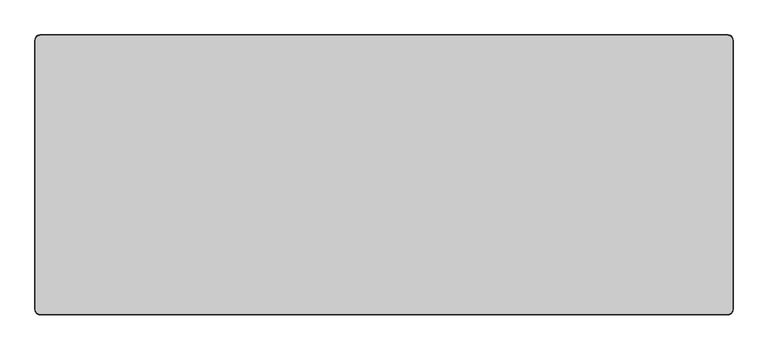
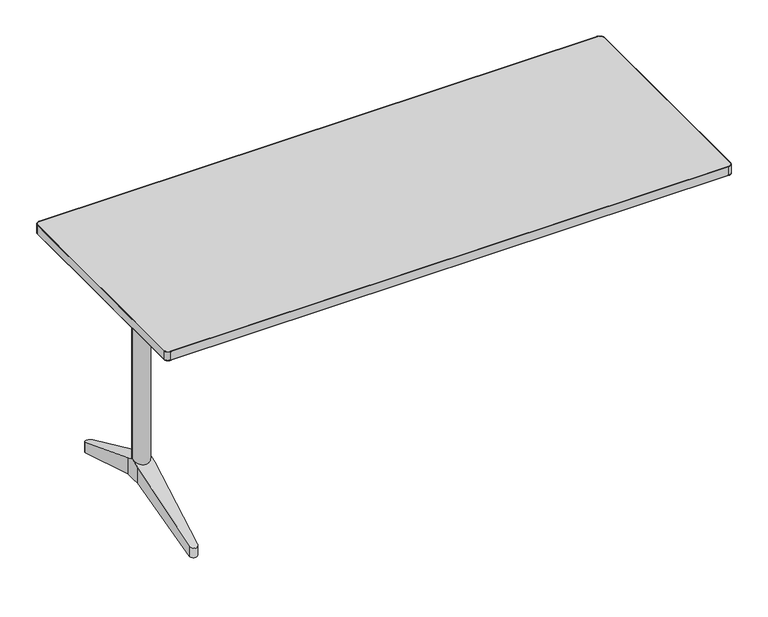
"""IFC4 building model written with IfcOpenShell, lengths in millimetres: furniture geometry, Furniture_Wilkhahn_612-51_TimetableSmart : TIMETABLE SMART 612/51 1500L x 0600W."""

from ifc_helpers import new_model, si_unit, point, frame, frame_2d, origin, place, context, project, spatial, polyline, circle_curve, ellipse_curve, trimmed, segment, composite_curve, outline, extrude, source, transform, mapped, element, save
from ifc_brep_helpers import plane_surface, cylinder_surface, revolved_surface, advanced_brep


def furniture_6ae0472c(model_context):
    return source(origin(), model_context, "Body", "SolidModel", [
        advanced_brep(
        [(-633.227182, -113.0675149, 88.8098467), (-653.3042073, -113.0675149, 88.8098467), (-665.7478455, 103.4511538, 165.9000199), (-620.7835638, 103.4511538, 165.9000199), (-633.2821683, -114.0242798, 118.1504308), (-620.7835661, 103.452023, 210.3603745), (-620.7657234, 125.9511569, 219.9000064), (-665.7657383, 125.9511569, 219.9000064), (-665.7657383, 103.4511538, 210.360006), (-653.2492204, -114.0242831, 118.1504294), (-633.2821683, -114.0242798, 88.8098467), (-653.2492204, -114.0242831, 88.8098467), (-633.227182, 364.9698238, 88.8098467), (-653.3042073, 364.9698238, 88.8098467), (-653.2492204, 365.926592, 88.8098467), (-633.2821683, 365.9265887, 88.8098467), (-620.7835661, 148.4502859, 210.3603745), (-633.2821683, 365.9265887, 118.1504308), (-653.2492204, 365.926592, 118.1504294), (-665.7478455, 148.4511551, 210.360006), (-620.7835638, 148.4502451, 165.9003439), (-665.7478455, 148.4511551, 165.9000199), (-620.7657234, 125.9511544, 165.9000199), (-665.7657383, 125.9511544, 165.9000199)],
        [
            (0, 1),
            (1, 2),
            (2, 3),
            (3, 0),
            (4, 5),
            (5, 6),
            (6, 7),
            (7, 8),
            (8, 9),
            (9, 4, ellipse_curve(frame((-643.2656945, -113.4505156, 118.3937069), z_axis=(0.0, -0.39036065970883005, 0.9206620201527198), x_axis=(0.0, -0.9206620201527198, -0.3903606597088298)), 10.8617492, 10.0)),
            (0, 10),
            (10, 11, circle_curve(frame((-643.2656945, -113.4505156, 88.8098467), z_axis=(0.0, 0.0, -1.0), x_axis=(1.0, 0.0, 0.0)), 10.0)),
            (11, 1),
            (12, 13),
            (13, 14),
            (14, 15, circle_curve(frame((-643.2656945, 365.3528245, 88.8098467), z_axis=(0.0, 0.0, -1.0), x_axis=(1.0, 0.0, 0.0)), 10.0)),
            (15, 12),
            (16, 17),
            (17, 18, ellipse_curve(frame((-643.2656945, 365.3528245, 118.3937069), z_axis=(0.0, 0.39036065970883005, 0.9206620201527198), x_axis=(0.0, 0.9206620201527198, -0.3903606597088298)), 10.8617492, 10.0)),
            (18, 19),
            (19, 7),
            (6, 16),
            (12, 20),
            (20, 21),
            (21, 13),
            (15, 17),
            (16, 20),
            (18, 14),
            (21, 19),
            (4, 10),
            (3, 5),
            (9, 11),
            (8, 2),
            (3, 22),
            (22, 20),
            (21, 23),
            (23, 2),
            (23, 22),
        ],
        [
            plane_surface(frame((-620.7657234, -113.0675149, 88.8098467), z_axis=(0.0, 0.33541814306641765, -0.9420693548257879), x_axis=(-1.0, 0.0, 0.0))),
            plane_surface(frame((-620.7657234, 103.4511538, 210.360006), z_axis=(0.0, -0.39036065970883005, 0.9206620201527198), x_axis=(-1.0, 0.0, 0.0))),
            plane_surface(frame((-620.7657234, -124.5346363, 88.8098467), z_axis=(0.0, 0.0, -1.0), x_axis=(-1.0, 0.0, 0.0))),
            plane_surface(frame((-620.7657234, 364.9698238, 88.8098467), z_axis=(0.0, 0.0, -1.0), x_axis=(-1.0, 0.0, 0.0))),
            plane_surface(frame((-620.7657234, 376.4369452, 113.6940401), z_axis=(0.0, 0.39036065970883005, 0.9206620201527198), x_axis=(-1.0, 0.0, 0.0))),
            plane_surface(frame((-620.7657234, 148.4511551, 165.9000199), z_axis=(0.0, -0.33541814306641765, -0.9420693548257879), x_axis=(-1.0, 0.0, 0.0))),
            plane_surface(frame((-633.2821683, 365.9265887, 234.8098558), z_axis=(0.9983526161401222, 0.0573764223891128, 0.0), x_axis=(0.0, 0.0, -1.0))),
            plane_surface(frame((-665.7478455, 148.4511551, 234.8098558), z_axis=(-0.9983525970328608, 0.0573767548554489, 0.0), x_axis=(0.0, 0.0, -1.0))),
            cylinder_surface(frame((-643.2656945, 365.3528245, 75.8098498), z_axis=(0.0, 0.0, -1.0), x_axis=(1.0, 0.0, 0.0)), 10.0),
            plane_surface(frame((-620.7836161, 103.4511538, 234.8098558), z_axis=(0.9983526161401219, -0.05737642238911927, 0.0), x_axis=(0.0, 0.0, -1.0))),
            cylinder_surface(frame((-643.2656945, -113.4505156, -14.1901527), z_axis=(0.0, 0.0, -1.0), x_axis=(1.0, 0.0, 0.0)), 10.0),
            plane_surface(frame((-653.2492204, -114.0242831, 234.8098558), z_axis=(-0.9983525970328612, -0.05737675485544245, 0.0), x_axis=(0.0, 0.0, -1.0))),
            plane_surface(frame((-620.7657234, 148.4511551, 210.360006), z_axis=(1.0, 0.0, 0.0), x_axis=(0.0, -0.9206619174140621, 0.3903609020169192))),
            plane_surface(frame((-665.7657383, 148.4511551, 210.360006), z_axis=(-1.0, 0.0, 0.0), x_axis=(0.0, 0.9206619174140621, -0.3903609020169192))),
            plane_surface(frame((-620.7657234, 103.4511538, 165.9000199), z_axis=(0.0, 0.0, -1.0), x_axis=(-1.0, 0.0, 0.0))),
            plane_surface(frame((-620.7657234, 125.9511544, 165.9000199), z_axis=(0.0, 0.0, -1.0), x_axis=(-1.0, 0.0, 0.0))),
        ],
        [
            (0, [[1, 2, 3, 4]]),
            (1, [[5, 6, 7, 8, 9, 10]]),
            (2, [[-1, 11, 12, 13]]),
            (3, [[14, 15, 16, 17]]),
            (4, [[18, 19, 20, 21, -7, 22]]),
            (5, [[-14, 23, 24, 25]]),
            (6, [[26, -18, 27, -23, -17]]),
            (7, [[28, -15, -25, 29, -20]]),
            (8, [[-26, -16, -28, -19]]),
            (9, [[30, -11, -4, 31, -5]]),
            (10, [[-30, -10, 32, -12]]),
            (11, [[-32, -9, 33, -2, -13]]),
            (12, [[-22, -6, -31, 34, 35, -27]]),
            (13, [[36, 37, -33, -8, -21, -29]]),
            (14, [[-34, -3, -37, 38]]),
            (15, [[-35, -38, -36, -24]]),
        ],
    ),
        extrude(outline(composite_curve([segment(trimmed(circle_curve(frame_2d((-643.2657309, 125.9511544)), 22.0), [point((-665.2657309, 125.9511544))], [point((-621.2657309, 125.9511544))], False, "CARTESIAN"), True, "CONTINUOUS"), segment(trimmed(circle_curve(frame_2d((-643.2657309, 125.9511544)), 22.0), [point((-621.2657309, 125.9511544))], [point((-665.2657309, 125.9511544))], False, "CARTESIAN"), True, "CONTINUOUS")], self_intersect=False)), frame((0.0, 0.0, 165.9000199), z_axis=(0.0, 0.0, 1.0), x_axis=(1.0, 0.0, 0.0)), (0.0, 0.0, 1.0), 509.0999944),
        extrude(outline(polyline([(-675.0000109, 322.9511544), (-615.0000395, 322.9511544), (-615.0000395, -71.0488456), (-675.0000109, -71.0488456), (-675.0000109, 322.9511544)]), holes=[polyline([(-617.0000628, 65.9511581), (-617.0000628, 175.9511571), (-672.9999876, 175.9511571), (-672.9999876, 65.9511581), (-617.0000628, 65.9511581)])]), frame((0.0, 0.0, 684.9999762), z_axis=(0.0, 0.0, 1.0), x_axis=(1.0, 0.0, 0.0)), (0.0, 0.0, 1.0), 20.0000238),
        extrude(outline(polyline([(615.0000395, 322.9511544), (675.0000109, 322.9511544), (675.0000109, -71.0488456), (615.0000395, -71.0488456), (615.0000395, 322.9511544)]), holes=[polyline([(672.9999876, 65.9511581), (672.9999876, 175.9511571), (617.0000628, 175.9511571), (617.0000628, 65.9511581), (672.9999876, 65.9511581)])]), frame((0.0, 0.0, 684.9999762), z_axis=(0.0, 0.0, 1.0), x_axis=(1.0, 0.0, 0.0)), (0.0, 0.0, 1.0), 20.0000238),
        extrude(outline(polyline([(-620.7657234, 75.9511563), (-665.7657383, 75.9511563), (-665.7657383, 155.951156), (-620.7657234, 155.951156), (-620.7657234, 75.9511563)])), frame((0.0, 0.0, 675.0000143), z_axis=(0.0, 0.0, 1.0), x_axis=(1.0, 0.0, 0.0)), (0.0, 0.0, 1.0), 29.9999857),
        extrude(outline(polyline([(620.7657234, 75.9511563), (620.7657234, 155.951156), (665.7657383, 155.951156), (665.7657383, 75.9511563), (620.7657234, 75.9511563)])), frame((0.0, 0.0, 675.0000143), z_axis=(0.0, 0.0, 1.0), x_axis=(1.0, 0.0, 0.0)), (0.0, 0.0, 1.0), 29.9999857),
        extrude(outline(composite_curve([segment(trimmed(circle_curve(frame_2d((-643.2657309, 125.9511544)), 22.0), [point((-629.9334407, 108.4511533))], [point((-629.9334407, 143.4511556))], True, "CARTESIAN"), True, "CONTINUOUS"), segment(polyline([(-629.9334407, 143.4511556), (629.9334407, 143.4511556)]), True, "CONTINUOUS"), segment(trimmed(circle_curve(frame_2d((643.2657309, 125.9511544)), 22.0), [point((629.9334407, 143.4511556))], [point((629.9334407, 108.4511533))], True, "CARTESIAN"), True, "CONTINUOUS"), segment(polyline([(629.9334407, 108.4511533), (-629.9334407, 108.4511533)]), True, "CONTINUOUS")], self_intersect=False)), frame((0.0, 0.0, 625.0000143), z_axis=(0.0, 0.0, 1.0), x_axis=(1.0, 0.0, 0.0)), (0.0, 0.0, 1.0), 50.0),
        advanced_brep(
        [(-615.0000395, -94.0488456, 676.3914874), (-615.0000395, -94.0488456, 696.3914874), (615.0000395, -94.0488456, 676.3914874), (615.0000395, -94.0488456, 696.3914874), (-607.9107653, -94.0488456, 676.3914874), (-606.463829, -94.0488456, 696.3914874), (-552.9107794, -94.0488456, 668.391467), (-551.4638431, -94.0488456, 688.391467), (552.910768, -94.0488456, 668.391467), (551.4638316, -94.0488456, 688.391467), (607.9107539, -94.0488456, 676.3914874), (606.4638175, -94.0488456, 696.3914874)],
        [
            (0, 1, circle_curve(frame((-615.0000395, -94.0488456, 686.3914874), z_axis=(-1.0, 0.0, 0.0), x_axis=(0.0, 0.0, 1.0)), 10.0)),
            (1, 0, circle_curve(frame((-615.0000395, -94.0488456, 686.3914874), z_axis=(-1.0, 0.0, 0.0), x_axis=(0.0, 0.0, 1.0)), 10.0)),
            (2, 3, circle_curve(frame((615.0000395, -94.0488456, 686.3914874), z_axis=(1.0, 0.0, 0.0), x_axis=(0.0, 0.0, 1.0)), 10.0)),
            (3, 2, circle_curve(frame((615.0000395, -94.0488456, 686.3914874), z_axis=(1.0, 0.0, 0.0), x_axis=(0.0, 0.0, 1.0)), 10.0)),
            (0, 4),
            (4, 5, ellipse_curve(frame((-607.1872971, -94.0488456, 686.3914874), z_axis=(-0.9973931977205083, 0.0, 0.07215822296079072), x_axis=(-0.07215822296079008, 0.0, -0.9973931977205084)), 10.0261362, 10.0)),
            (5, 1),
            (5, 4, ellipse_curve(frame((-607.1872971, -94.0488456, 686.3914874), z_axis=(-0.9973931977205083, 0.0, 0.07215822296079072), x_axis=(-0.07215822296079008, 0.0, -0.9973931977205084)), 10.0261362, 10.0)),
            (4, 6),
            (6, 7, ellipse_curve(frame((-552.1873113, -94.0488456, 678.391467), z_axis=(-0.9973931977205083, 0.0, 0.07215822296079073), x_axis=(0.07215822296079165, 0.0, 0.9973931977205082)), 10.0261362, 10.0)),
            (7, 5),
            (7, 6, ellipse_curve(frame((-552.1873113, -94.0488456, 678.391467), z_axis=(-0.9973931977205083, 0.0, 0.07215822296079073), x_axis=(0.07215822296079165, 0.0, 0.9973931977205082)), 10.0261362, 10.0)),
            (6, 8),
            (8, 9, ellipse_curve(frame((552.1872998, -94.0488456, 678.391467), z_axis=(-0.997393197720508, 0.0, -0.07215822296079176), x_axis=(-0.0721582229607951, 0.0, 0.9973931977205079)), 10.0261362, 10.0)),
            (9, 7),
            (9, 8, ellipse_curve(frame((552.1872998, -94.0488456, 678.391467), z_axis=(-0.997393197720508, 0.0, -0.07215822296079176), x_axis=(-0.0721582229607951, 0.0, 0.9973931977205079)), 10.0261362, 10.0)),
            (8, 10),
            (10, 11, ellipse_curve(frame((607.1872857, -94.0488456, 686.3914874), z_axis=(-0.997393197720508, 0.0, -0.07215822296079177), x_axis=(0.07215822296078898, 0.0, -0.9973931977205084)), 10.0261362, 10.0)),
            (11, 9),
            (11, 10, ellipse_curve(frame((607.1872857, -94.0488456, 686.3914874), z_axis=(-0.997393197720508, 0.0, -0.07215822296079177), x_axis=(0.07215822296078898, 0.0, -0.9973931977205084)), 10.0261362, 10.0)),
            (10, 2),
            (3, 11),
        ],
        [
            plane_surface(frame((-615.0000395, -71.0488456, 716.6250406), z_axis=(-1.0, 0.0, 0.0), x_axis=(0.0, -1.0, 0.0))),
            plane_surface(frame((615.0000395, -71.0488456, 716.6250406), z_axis=(1.0, 0.0, 0.0), x_axis=(0.0, -1.0, 0.0))),
            cylinder_surface(frame((-615.0000395, -94.0488456, 686.3914874), z_axis=(-1.0, 0.0, 0.0), x_axis=(0.0, 0.0, 1.0)), 10.0),
            cylinder_surface(frame((-609.3518208, -94.0488456, 686.7063281), z_axis=(-0.9895863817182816, 0.0, 0.14394024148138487), x_axis=(0.14394024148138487, 0.0, 0.9895863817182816)), 10.0),
            cylinder_surface(frame((-550.0000099, -94.0488456, 678.391467), z_axis=(-1.0, 0.0, 0.0), x_axis=(0.0, 0.0, 1.0)), 10.0),
            cylinder_surface(frame((554.3518234, -94.0488456, 678.7063077), z_axis=(-0.9895863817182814, 0.0, -0.14394024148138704), x_axis=(-0.14394024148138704, 0.0, 0.9895863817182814)), 10.0),
            cylinder_surface(frame((604.9999844, -94.0488456, 686.3914874), z_axis=(-1.0, 0.0, 0.0), x_axis=(0.0, 0.0, 1.0)), 10.0),
        ],
        [
            (0, [[1, 2]]),
            (1, [[3, 4]]),
            (2, [[-1, 5, 6, 7]]),
            (2, [[-2, -7, 8, -5]]),
            (3, [[-6, 9, 10, 11]]),
            (3, [[-8, -11, 12, -9]]),
            (4, [[-10, 13, 14, 15]]),
            (4, [[-12, -15, 16, -13]]),
            (5, [[-14, 17, 18, 19]]),
            (5, [[-16, -19, 20, -17]]),
            (6, [[-18, 21, -4, 22]]),
            (6, [[-20, -22, -3, -21]]),
        ],
    ),
        extrude(outline(composite_curve([segment(trimmed(circle_curve(frame_2d((-740.0, 415.9511544)), 10.0), [point((-750.0, 415.9511544))], [point((-740.0, 425.9511544))], False, "CARTESIAN"), True, "CONTINUOUS"), segment(polyline([(-740.0, 425.9511544), (740.0, 425.9511544)]), True, "CONTINUOUS"), segment(trimmed(circle_curve(frame_2d((740.0, 415.9511544)), 10.0), [point((740.0, 425.9511544))], [point((750.0, 415.9511544))], False, "CARTESIAN"), True, "CONTINUOUS"), segment(polyline([(750.0, 415.9511544), (750.0, -164.0488456)]), True, "CONTINUOUS"), segment(trimmed(circle_curve(frame_2d((740.0, -164.0488456)), 10.0), [point((750.0, -164.0488456))], [point((740.0, -174.0488456))], False, "CARTESIAN"), True, "CONTINUOUS"), segment(polyline([(740.0, -174.0488456), (-740.0, -174.0488456)]), True, "CONTINUOUS"), segment(trimmed(circle_curve(frame_2d((-740.0, -164.0488456)), 10.0), [point((-740.0, -174.0488456))], [point((-750.0, -164.0488456))], False, "CARTESIAN"), True, "CONTINUOUS"), segment(polyline([(-750.0, -164.0488456), (-750.0, 415.9511544)]), True, "CONTINUOUS")], self_intersect=False)), frame((0.0, 0.0, 705.0), z_axis=(0.0, 0.0, 1.0), x_axis=(1.0, 0.0, 0.0)), (0.0, 0.0, 1.0), 25.0),
        advanced_brep(
        [(750.0, -164.0488456, 705.0), (740.0, -174.0488456, 705.0), (740.0, -174.0488456, 730.0), (750.0, -164.0488456, 730.0), (750.0, 415.9511544, 730.0), (750.0, 415.9511544, 705.0), (740.0, 425.9511544, 705.0), (740.0, 425.9511544, 730.0), (-740.0, 425.9511544, 730.0), (-740.0, 425.9511544, 705.0), (-750.0, 415.9511544, 705.0), (-750.0, 415.9511544, 730.0), (-750.0, -164.0488456, 730.0), (-750.0, -164.0488456, 705.0), (-740.0, -174.0488456, 705.0), (-740.0, -174.0488456, 730.0), (751.0, -164.0488456, 706.0), (740.0, -175.0488456, 706.0), (751.0, -164.0488456, 729.0), (740.0, -175.0488456, 729.0), (751.0, 415.9511544, 706.0), (751.0, 415.9511544, 729.0), (740.0, 426.9511544, 706.0), (740.0, 426.9511544, 729.0), (-740.0, 426.9511544, 706.0), (-740.0, 426.9511544, 729.0), (-751.0, 415.9511544, 706.0), (-751.0, 415.9511544, 729.0), (-751.0, -164.0488456, 706.0), (-751.0, -164.0488456, 729.0), (-740.0, -175.0488456, 706.0), (-740.0, -175.0488456, 729.0)],
        [
            (0, 1, circle_curve(frame((740.0, -164.0488456, 705.0), z_axis=(0.0, 0.0, -1.0), x_axis=(0.0, -1.0, 0.0)), 10.0)),
            (1, 2),
            (2, 3, circle_curve(frame((740.0, -164.0488456, 730.0), z_axis=(0.0, 0.0, 1.0), x_axis=(0.0, -1.0, 0.0)), 10.0)),
            (3, 0),
            (3, 4),
            (4, 5),
            (5, 0),
            (6, 5, circle_curve(frame((740.0, 415.9511544, 705.0), z_axis=(0.0, 0.0, -1.0), x_axis=(1.0, 0.0, 0.0)), 10.0)),
            (4, 7, circle_curve(frame((740.0, 415.9511544, 730.0), z_axis=(0.0, 0.0, 1.0), x_axis=(1.0, 0.0, 0.0)), 10.0)),
            (7, 6),
            (7, 8),
            (8, 9),
            (9, 6),
            (10, 9, circle_curve(frame((-740.0, 415.9511544, 705.0), z_axis=(0.0, 0.0, -1.0), x_axis=(0.0, 1.0, 0.0)), 10.0)),
            (8, 11, circle_curve(frame((-740.0, 415.9511544, 730.0), z_axis=(0.0, 0.0, 1.0), x_axis=(0.0, 1.0, 0.0)), 10.0)),
            (11, 10),
            (11, 12),
            (12, 13),
            (13, 10),
            (14, 13, circle_curve(frame((-740.0, -164.0488456, 705.0), z_axis=(0.0, 0.0, -1.0), x_axis=(-1.0, 0.0, 0.0)), 10.0)),
            (12, 15, circle_curve(frame((-740.0, -164.0488456, 730.0), z_axis=(0.0, 0.0, 1.0), x_axis=(-1.0, 0.0, 0.0)), 10.0)),
            (15, 14),
            (15, 2),
            (1, 14),
            (16, 17, circle_curve(frame((740.0, -164.0488456, 706.0), z_axis=(0.0, 0.0, -1.0), x_axis=(0.0, -1.0, 0.0)), 11.0)),
            (17, 1, circle_curve(frame((740.0, -174.0488456, 706.0), z_axis=(1.0, 0.0, 0.0), x_axis=(0.0, 1.0, 0.0)), 1.0)),
            (0, 16, circle_curve(frame((750.0, -164.0488456, 706.0), z_axis=(0.0, -1.0, 0.0), x_axis=(-1.0, 0.0, 0.0)), 1.0)),
            (18, 19, circle_curve(frame((740.0, -164.0488456, 729.0), z_axis=(0.0, 0.0, -1.0), x_axis=(0.0, -1.0, 0.0)), 11.0)),
            (19, 17),
            (16, 18),
            (2, 19, circle_curve(frame((740.0, -174.0488456, 729.0), z_axis=(1.0, 0.0, 0.0), x_axis=(0.0, 1.0, 0.0)), 1.0)),
            (18, 3, circle_curve(frame((750.0, -164.0488456, 729.0), z_axis=(0.0, -1.0, 0.0), x_axis=(-1.0, 0.0, 0.0)), 1.0)),
            (5, 20, circle_curve(frame((750.0, 415.9511544, 706.0), z_axis=(0.0, -1.0, 0.0), x_axis=(-1.0, 0.0, 0.0)), 1.0)),
            (20, 16),
            (20, 21),
            (21, 18),
            (21, 4, circle_curve(frame((750.0, 415.9511544, 729.0), z_axis=(0.0, -1.0, 0.0), x_axis=(-1.0, 0.0, 0.0)), 1.0)),
            (22, 20, circle_curve(frame((740.0, 415.9511544, 706.0), z_axis=(0.0, 0.0, -1.0), x_axis=(1.0, 0.0, 0.0)), 11.0)),
            (6, 22, circle_curve(frame((740.0, 425.9511544, 706.0), z_axis=(1.0, 0.0, 0.0), x_axis=(0.0, -1.0, 0.0)), 1.0)),
            (23, 21, circle_curve(frame((740.0, 415.9511544, 729.0), z_axis=(0.0, 0.0, -1.0), x_axis=(1.0, 0.0, 0.0)), 11.0)),
            (22, 23),
            (23, 7, circle_curve(frame((740.0, 425.9511544, 729.0), z_axis=(1.0, 0.0, 0.0), x_axis=(0.0, -1.0, 0.0)), 1.0)),
            (9, 24, circle_curve(frame((-740.0, 425.9511544, 706.0), z_axis=(1.0, 0.0, 0.0), x_axis=(0.0, -1.0, 0.0)), 1.0)),
            (24, 22),
            (24, 25),
            (25, 23),
            (25, 8, circle_curve(frame((-740.0, 425.9511544, 729.0), z_axis=(1.0, 0.0, 0.0), x_axis=(0.0, -1.0, 0.0)), 1.0)),
            (26, 24, circle_curve(frame((-740.0, 415.9511544, 706.0), z_axis=(0.0, 0.0, -1.0), x_axis=(0.0, 1.0, 0.0)), 11.0)),
            (10, 26, circle_curve(frame((-750.0, 415.9511544, 706.0), z_axis=(0.0, 1.0, 0.0), x_axis=(1.0, 0.0, 0.0)), 1.0)),
            (27, 25, circle_curve(frame((-740.0, 415.9511544, 729.0), z_axis=(0.0, 0.0, -1.0), x_axis=(0.0, 1.0, 0.0)), 11.0)),
            (26, 27),
            (27, 11, circle_curve(frame((-750.0, 415.9511544, 729.0), z_axis=(0.0, 1.0, 0.0), x_axis=(1.0, 0.0, 0.0)), 1.0)),
            (13, 28, circle_curve(frame((-750.0, -164.0488456, 706.0), z_axis=(0.0, 1.0, 0.0), x_axis=(1.0, 0.0, 0.0)), 1.0)),
            (28, 26),
            (28, 29),
            (29, 27),
            (29, 12, circle_curve(frame((-750.0, -164.0488456, 729.0), z_axis=(0.0, 1.0, 0.0), x_axis=(1.0, 0.0, 0.0)), 1.0)),
            (30, 28, circle_curve(frame((-740.0, -164.0488456, 706.0), z_axis=(0.0, 0.0, -1.0), x_axis=(-1.0, 0.0, 0.0)), 11.0)),
            (14, 30, circle_curve(frame((-740.0, -174.0488456, 706.0), z_axis=(-1.0, 0.0, 0.0), x_axis=(0.0, 1.0, 0.0)), 1.0)),
            (31, 29, circle_curve(frame((-740.0, -164.0488456, 729.0), z_axis=(0.0, 0.0, -1.0), x_axis=(-1.0, 0.0, 0.0)), 11.0)),
            (30, 31),
            (31, 15, circle_curve(frame((-740.0, -174.0488456, 729.0), z_axis=(-1.0, 0.0, 0.0), x_axis=(0.0, 1.0, 0.0)), 1.0)),
            (17, 30),
            (19, 31),
        ],
        [
            revolved_surface(polyline([(740.0, -174.0488456, 730.0), (740.0, -174.0488456, 705.0)]), (740.0, -164.0488456, 730.0), (0.0, 0.0, 1.0)),
            plane_surface(frame((750.0, -164.0488456, 730.0), z_axis=(-1.0, 0.0, 0.0), x_axis=(0.0, 1.0, 0.0))),
            revolved_surface(polyline([(750.0, 415.9511544, 730.0), (750.0, 415.9511544, 705.0)]), (740.0, 415.9511544, 730.0), (0.0, 0.0, 1.0)),
            plane_surface(frame((740.0, 425.9511544, 730.0), z_axis=(0.0, -1.0, 0.0), x_axis=(-1.0, 0.0, 0.0))),
            revolved_surface(polyline([(-740.0, 425.9511544, 730.0), (-740.0, 425.9511544, 705.0)]), (-740.0, 415.9511544, 730.0), (0.0, 0.0, 1.0)),
            plane_surface(frame((-750.0, 415.9511544, 730.0), z_axis=(1.0, 0.0, 0.0), x_axis=(0.0, -1.0, 0.0))),
            revolved_surface(polyline([(-750.0, -164.0488456, 730.0), (-750.0, -164.0488456, 705.0)]), (-740.0, -164.0488456, 730.0), (0.0, 0.0, 1.0)),
            plane_surface(frame((-740.0, -174.0488456, 730.0), z_axis=(0.0, 1.0, 0.0), x_axis=(1.0, 0.0, 0.0))),
            revolved_surface(trimmed(ellipse_curve(frame((740.0, -174.0488456, 706.0), z_axis=(-1.0, 0.0, 0.0), x_axis=(0.0, 1.0, 0.0)), 1.0, 1.0), [point((740.0, -174.0488456, 705.0))], [point((740.0, -175.0488456, 706.0))], True, "CARTESIAN"), (740.0, -164.0488456, 730.0), (0.0, 0.0, 1.0)),
            cylinder_surface(frame((740.0, -164.0488456, 730.0), z_axis=(0.0, 0.0, 1.0), x_axis=(0.0, -1.0, 0.0)), 11.0),
            revolved_surface(trimmed(ellipse_curve(frame((740.0, -174.0488456, 729.0), z_axis=(-1.0, 0.0, 0.0), x_axis=(0.0, 1.0, 0.0)), 1.0, 1.0), [point((740.0, -175.0488456, 729.0))], [point((740.0, -174.0488456, 730.0))], True, "CARTESIAN"), (740.0, -164.0488456, 730.0), (0.0, 0.0, 1.0)),
            cylinder_surface(frame((750.0, -164.0488456, 706.0), z_axis=(0.0, -1.0, 0.0), x_axis=(-1.0, 0.0, 0.0)), 1.0),
            plane_surface(frame((751.0, -164.0488456, 706.0), z_axis=(1.0, 0.0, 0.0), x_axis=(0.0, 1.0, 0.0))),
            cylinder_surface(frame((750.0, -164.0488456, 729.0), z_axis=(0.0, -1.0, 0.0), x_axis=(-1.0, 0.0, 0.0)), 1.0),
            revolved_surface(trimmed(ellipse_curve(frame((750.0, 415.9511544, 706.0), z_axis=(0.0, -1.0, 0.0), x_axis=(-1.0, 0.0, 0.0)), 1.0, 1.0), [point((750.0, 415.9511544, 705.0))], [point((751.0, 415.9511544, 706.0))], True, "CARTESIAN"), (740.0, 415.9511544, 730.0), (0.0, 0.0, 1.0)),
            cylinder_surface(frame((740.0, 415.9511544, 730.0), z_axis=(0.0, 0.0, 1.0), x_axis=(1.0, 0.0, 0.0)), 11.0),
            revolved_surface(trimmed(ellipse_curve(frame((750.0, 415.9511544, 729.0), z_axis=(0.0, -1.0, 0.0), x_axis=(-1.0, 0.0, 0.0)), 1.0, 1.0), [point((751.0, 415.9511544, 729.0))], [point((750.0, 415.9511544, 730.0))], True, "CARTESIAN"), (740.0, 415.9511544, 730.0), (0.0, 0.0, 1.0)),
            cylinder_surface(frame((740.0, 425.9511544, 706.0), z_axis=(1.0, 0.0, 0.0), x_axis=(0.0, -1.0, 0.0)), 1.0),
            plane_surface(frame((740.0, 426.9511544, 706.0), z_axis=(0.0, 1.0, 0.0), x_axis=(-1.0, 0.0, 0.0))),
            cylinder_surface(frame((740.0, 425.9511544, 729.0), z_axis=(1.0, 0.0, 0.0), x_axis=(0.0, -1.0, 0.0)), 1.0),
            revolved_surface(trimmed(ellipse_curve(frame((-740.0, 425.9511544, 706.0), z_axis=(1.0, 0.0, 0.0), x_axis=(0.0, -1.0, 0.0)), 1.0, 1.0), [point((-740.0, 425.9511544, 705.0))], [point((-740.0, 426.9511544, 706.0))], True, "CARTESIAN"), (-740.0, 415.9511544, 730.0), (0.0, 0.0, 1.0)),
            cylinder_surface(frame((-740.0, 415.9511544, 730.0), z_axis=(0.0, 0.0, 1.0), x_axis=(0.0, 1.0, 0.0)), 11.0),
            revolved_surface(trimmed(ellipse_curve(frame((-740.0, 425.9511544, 729.0), z_axis=(1.0, 0.0, 0.0), x_axis=(0.0, -1.0, 0.0)), 1.0, 1.0), [point((-740.0, 426.9511544, 729.0))], [point((-740.0, 425.9511544, 730.0))], True, "CARTESIAN"), (-740.0, 415.9511544, 730.0), (0.0, 0.0, 1.0)),
            cylinder_surface(frame((-750.0, 415.9511544, 706.0), z_axis=(0.0, 1.0, 0.0), x_axis=(1.0, 0.0, 0.0)), 1.0),
            plane_surface(frame((-751.0, 415.9511544, 706.0), z_axis=(-1.0, 0.0, 0.0), x_axis=(0.0, -1.0, 0.0))),
            cylinder_surface(frame((-750.0, 415.9511544, 729.0), z_axis=(0.0, 1.0, 0.0), x_axis=(1.0, 0.0, 0.0)), 1.0),
            revolved_surface(trimmed(ellipse_curve(frame((-750.0, -164.0488456, 706.0), z_axis=(0.0, 1.0, 0.0), x_axis=(1.0, 0.0, 0.0)), 1.0, 1.0), [point((-750.0, -164.0488456, 705.0))], [point((-751.0, -164.0488456, 706.0))], True, "CARTESIAN"), (-740.0, -164.0488456, 730.0), (0.0, 0.0, 1.0)),
            cylinder_surface(frame((-740.0, -164.0488456, 730.0), z_axis=(0.0, 0.0, 1.0), x_axis=(-1.0, 0.0, 0.0)), 11.0),
            revolved_surface(trimmed(ellipse_curve(frame((-750.0, -164.0488456, 729.0), z_axis=(0.0, 1.0, 0.0), x_axis=(1.0, 0.0, 0.0)), 1.0, 1.0), [point((-751.0, -164.0488456, 729.0))], [point((-750.0, -164.0488456, 730.0))], True, "CARTESIAN"), (-740.0, -164.0488456, 730.0), (0.0, 0.0, 1.0)),
            cylinder_surface(frame((-740.0, -174.0488456, 706.0), z_axis=(-1.0, 0.0, 0.0), x_axis=(0.0, 1.0, 0.0)), 1.0),
            plane_surface(frame((-740.0, -175.0488456, 706.0), z_axis=(0.0, -1.0, 0.0), x_axis=(1.0, 0.0, 0.0))),
            cylinder_surface(frame((-740.0, -174.0488456, 729.0), z_axis=(-1.0, 0.0, 0.0), x_axis=(0.0, 1.0, 0.0)), 1.0),
        ],
        [
            (0, [[1, 2, 3, 4]]),
            (1, [[-4, 5, 6, 7]]),
            (2, [[8, -6, 9, 10]]),
            (3, [[-10, 11, 12, 13]]),
            (4, [[14, -12, 15, 16]]),
            (5, [[-16, 17, 18, 19]]),
            (6, [[20, -18, 21, 22]]),
            (7, [[-22, 23, -2, 24]]),
            (8, [[25, 26, -1, 27]]),
            (9, [[28, 29, -25, 30]]),
            (10, [[-3, 31, -28, 32]]),
            (11, [[-27, -7, 33, 34]]),
            (12, [[-30, -34, 35, 36]]),
            (13, [[-32, -36, 37, -5]]),
            (14, [[38, -33, -8, 39]]),
            (15, [[40, -35, -38, 41]]),
            (16, [[-9, -37, -40, 42]]),
            (17, [[-39, -13, 43, 44]]),
            (18, [[-41, -44, 45, 46]]),
            (19, [[-42, -46, 47, -11]]),
            (20, [[48, -43, -14, 49]]),
            (21, [[50, -45, -48, 51]]),
            (22, [[-15, -47, -50, 52]]),
            (23, [[-49, -19, 53, 54]]),
            (24, [[-51, -54, 55, 56]]),
            (25, [[-52, -56, 57, -17]]),
            (26, [[58, -53, -20, 59]]),
            (27, [[60, -55, -58, 61]]),
            (28, [[-21, -57, -60, 62]]),
            (29, [[-59, -24, -26, 63]]),
            (30, [[-61, -63, -29, 64]]),
            (31, [[-62, -64, -31, -23]]),
        ],
    ),
    ])


if __name__ == "__main__":
    model = new_model("IFC4")
    model_context = context("Model", 3, world=origin())
    ifc_project = project(units=[si_unit("LENGTHUNIT", "METRE", prefix="MILLI")], contexts=[model_context])
    site = spatial("IfcSite", under=ifc_project)
    building = spatial("IfcBuilding", under=site)
    placement = place(None, origin())
    furniture_shape = furniture_6ae0472c(model_context)
    element("IfcFurniture", 1, ObjectType="Furniture_Wilkhahn_612-51_TimetableSmart : TIMETABLE SMART 612/51 1500L x 0600W", at=placement, inside=building, context=model_context, shape_type="MappedRepresentation", body=[
        mapped(furniture_shape, transform((0.0, 0.0, 0.0), x_axis=(1.0, 0.0, 0.0), y_axis=(0.0, 1.0, 0.0), z_axis=(0.0, 0.0, 1.0))),
    ])
    save(model, "model.ifc")
